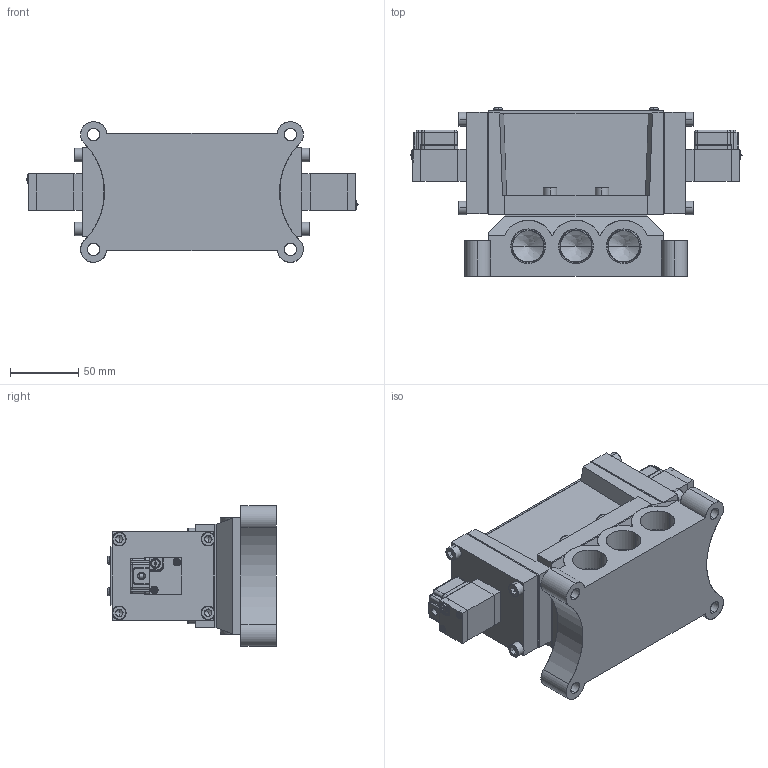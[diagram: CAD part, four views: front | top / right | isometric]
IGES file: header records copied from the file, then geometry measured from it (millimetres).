
Start section: SolidWorks IGES file using analytic representation for surfaces
Global section: file name: C:\Users\Toshiba\Desktop\PMD2415#-06-#G#.IGS; native system: SolidWorks 2014; preprocessor: SolidWorks 2014; author: Toshiba; date: 160121.105143; units: millimetre
Bounding box: 242.95 x 123.55 x 103 mm (x, y, z)
Surface area: 218212.1 mm2 (no closed solid volume)
Topology: 0 solids, 0 shells, 1086 faces, 11259 edges, 11207 vertices
Faces by surface type: bspline 688, revolution 398
